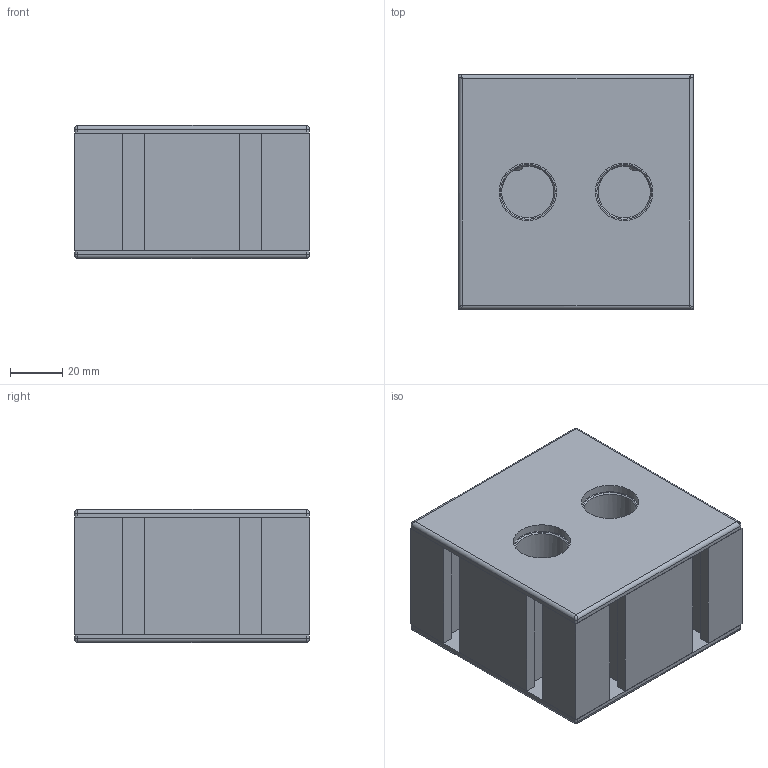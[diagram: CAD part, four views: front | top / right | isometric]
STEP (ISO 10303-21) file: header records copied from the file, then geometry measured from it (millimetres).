
FILE_DESCRIPTION((''),'2;1');
FILE_NAME('C:\Documents and Settings\Administrator\My Documents\Andys Backup Data\ANDY''S INVENTOR\INVENTOR LIBRARIES\MINITEC INVENTOR LIBRARIES\READY FOR USE MODULES LB\28.0153 SHAFT SUPPORT BLOCK WB 90.stp','2009-04-06T09:46:06',('Administrator'),(''),'Autodesk Inventor 2009','Autodesk Inventor 2009','');
FILE_SCHEMA(('AUTOMOTIVE_DESIGN { 1 0 10303 214 1 1 1 1 }'));
Products named in the file (7): 28.0153 SHAFT SUPPORT BLOCK WB 90; 22.1069_1 END CAP 90X90 GRAY; 28.0146 CENTERING BUSH; DIN 914 M8 x 35; 21.1351 M8 SQUARE NUT; 28.0095_1 END CAP LB 90 GRAY
Assembly tree (9 placements, depth 2):
  28.0153 SHAFT SUPPORT BLOCK WB 90
    28.0153 SHAFT SUPPORT BLOCK WB 90
    22.1069_1 END CAP 90X90 GRAY
    28.0146 CENTERING BUSH  x2
    DIN 914 M8 x 35  x2
    21.1351 M8 SQUARE NUT  x2
    28.0095_1 END CAP LB 90 GRAY
Bounding box: 90 x 90 x 51.01 mm (x, y, z)
Volume: 219093.4 mm3; surface area: 123167 mm2
Topology: 9 solids, 9 shells, 246 faces, 662 edges, 422 vertices
Faces by surface type: plane 168, cylinder 46, bspline 16, cone 16
Full cylindrical faces by diameter (mm): 7.5 x6, 8 x4, 8.2 x2, 11.7 x4, 20 x2, 22 x2, 32 x4
Entity records: 7616 total; most frequent: CARTESIAN_POINT 2358, ORIENTED_EDGE 1034, DIRECTION 982, EDGE_CURVE 517, VECTOR 404, LINE 404, VERTEX_POINT 351, AXIS2_PLACEMENT_3D 289
